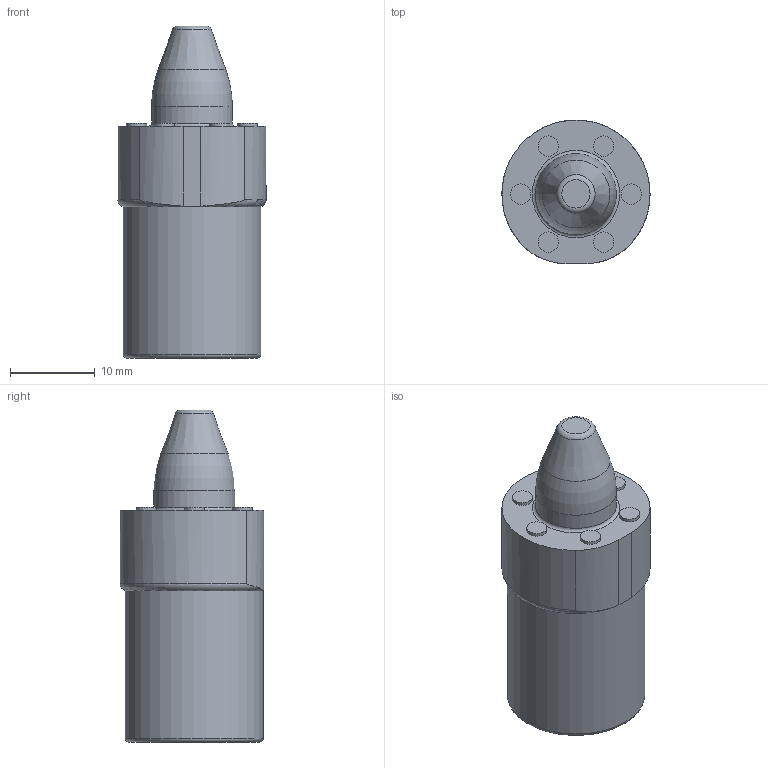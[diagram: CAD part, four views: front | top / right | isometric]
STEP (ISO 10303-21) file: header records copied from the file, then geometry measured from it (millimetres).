
FILE_DESCRIPTION (( 'STEP AP214' ), '1' );
FILE_NAME ('PA-.375-.075-S-P-BT.STEP', '2023-12-06T12:03:31', ( '' ), ( '' ), 'SwSTEP 2.0', 'SolidWorks 2020', '' );
FILE_SCHEMA (( 'AUTOMOTIVE_DESIGN' ));
Length unit declared in the file: inch
Products named in the file (1): PA-.375-.075-S-P-BT
Bounding box: 17.45 x 16.93 x 39.12 mm (x, y, z)
Volume: 6291.1 mm3; surface area: 2327.1 mm2
Topology: 1 solids, 1 shells, 31 faces, 59 edges, 37 vertices
Faces by surface type: cylinder 13, plane 10, torus 5, cone 3
Full cylindrical faces by diameter (mm): 2.388 x6, 3.797 x1, 4.826 x1, 9.525 x1, 16.231 x1
Entity records: 869 total; most frequent: CARTESIAN_POINT 147, DIRECTION 127, ORIENTED_EDGE 74, AXIS2_PLACEMENT_3D 61, EDGE_LOOP 56, FACE_OUTER_BOUND 46, EDGE_CURVE 37, VERTEX_POINT 33
